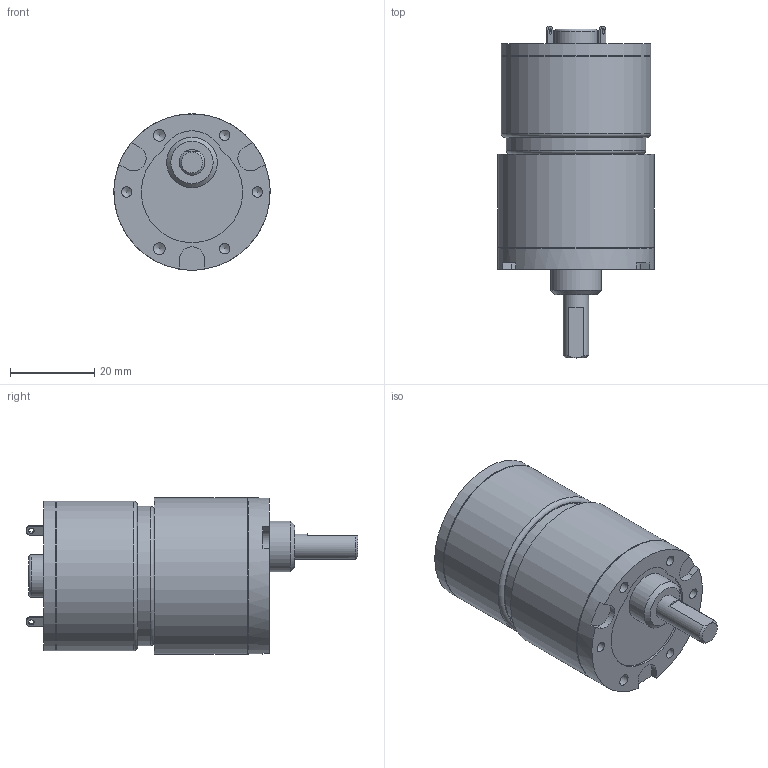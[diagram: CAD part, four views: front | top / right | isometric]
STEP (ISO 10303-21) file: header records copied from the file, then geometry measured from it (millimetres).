
FILE_DESCRIPTION((''),'2;1');
FILE_NAME('C:\Documents and Settings\SSEGAWA\デスクトップ\TP-3526A-KS-4.STP','2013-07-05T16:01:44',('SSEGAWA'),(''),'Autodesk Inventor 2010','Autodesk Inventor 2010','');
FILE_SCHEMA(('CONFIG_CONTROL_DESIGN'));
Length unit declared in the file: millimetre
Products named in the file (3): tp_3526abcj_ks_4; ks_4; tp_3526a,b,c,j
Assembly tree (2 placements, depth 2):
  tp_3526abcj_ks_4
    ks_4
    tp_3526a,b,c,j
Bounding box: 37 x 78.6 x 37 mm (x, y, z)
Volume: 55529.3 mm3; surface area: 11438.4 mm2
Topology: 3 solids, 3 shells, 82 faces, 188 edges, 125 vertices
Faces by surface type: plane 36, bspline 21, cylinder 20, torus 3, cone 2
Full cylindrical faces by diameter (mm): 2 x1, 4 x1, 6 x1, 10 x2, 12 x1, 33 x1, 35 x1, 35.4 x2, 36.6 x1, 37 x2
Entity records: 2313 total; most frequent: CARTESIAN_POINT 700, DIRECTION 329, ORIENTED_EDGE 250, AXIS2_PLACEMENT_3D 140, EDGE_LOOP 137, EDGE_CURVE 125, VERTEX_POINT 100, FACE_OUTER_BOUND 82
